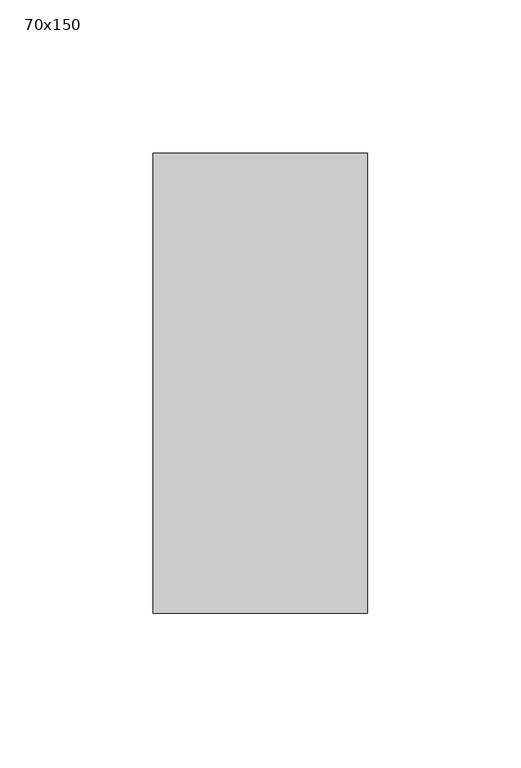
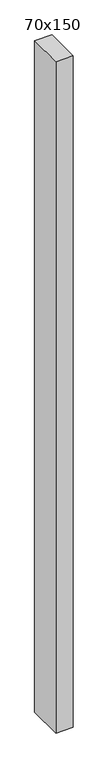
"""IFC4 building model written with IfcOpenShell, lengths in millimetres: member geometry, 長方形のマリオン : 70x150."""

from ifc_helpers import new_model, si_unit, frame, origin, place, context, project, spatial, polyline, outline, extrude, source, transform, mapped, element, save


def member_70x150_07c10103(model_context):
    return source(origin(), model_context, "Body", "SweptSolid", [
        extrude(outline(polyline([(35.0, 75.0), (35.0, -75.0), (-35.0, -75.0), (-35.0, 75.0), (35.0, 75.0)])), frame((0.0, 0.0, -2900.0), z_axis=(0.0, 0.0, 1.0), x_axis=(1.0, 0.0, 0.0)), (0.0, 0.0, 1.0), 2900.0),
    ])


if __name__ == "__main__":
    model = new_model("IFC4")
    model_context = context("Model", 3, world=origin())
    ifc_project = project(units=[si_unit("LENGTHUNIT", "METRE", prefix="MILLI")], contexts=[model_context])
    site = spatial("IfcSite", under=ifc_project)
    building = spatial("IfcBuilding", under=site)
    placement = place(None, origin())
    member_70x150_shape = member_70x150_07c10103(model_context)
    element("IfcMember", 1, ObjectType="長方形のマリオン : 70x150", at=placement, inside=building, context=model_context, shape_type="MappedRepresentation", body=[
        mapped(member_70x150_shape, transform((0.0, 0.0, 0.0), x_axis=(1.0, 0.0, 0.0), y_axis=(0.0, 1.0, 0.0), z_axis=(0.0, 0.0, 1.0))),
    ])
    save(model, "model.ifc")
